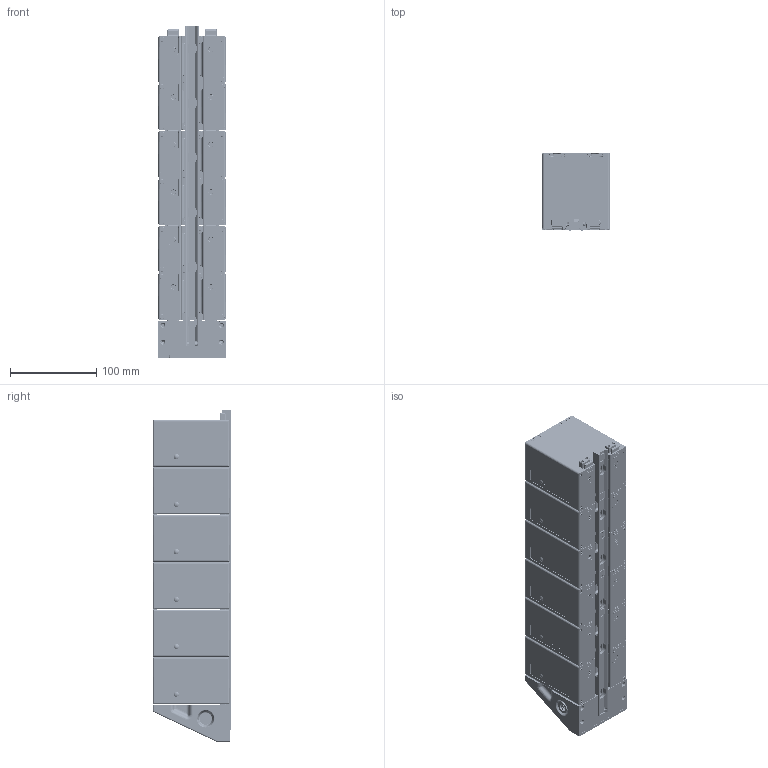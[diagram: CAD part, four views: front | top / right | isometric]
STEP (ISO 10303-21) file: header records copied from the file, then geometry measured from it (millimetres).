
FILE_DESCRIPTION (( 'STEP AP214' ), '1' );
FILE_NAME ('LGX 6X Basic Dock.STEP', '2025-11-04T00:54:06', ( '' ), ( '' ), 'SwSTEP 2.0', 'SolidWorks 2021', '' );
FILE_SCHEMA (( 'AUTOMOTIVE_DESIGN' ));
Length unit declared in the file: millimetre
Products named in the file (22): LGX 6X Basic Dock; LGX-Base_InjectionMolded; M3 Screw_M3x5; LGX Cell Assembly; XT60M; LXG Single Module_B2 Rear Locked; LG10X-Top_InjectionMolding; XT60F; LGX-Dock R3_Dock Only; LGX-Rail_Rail x6; M3 Screw_M3x18; LXG Single Module_B2 Locked; LXG Single Module_B2 Front Locked; LGX-Ovl; M3 Screw_M3x12; LGX_TLock; ST3 Plug; LGX-Dock R3_Shell Only; LGX-Encl_Extrusion Profile; LiGo 10X PCB P5; LGX-Latch
Assembly tree (96 placements, depth 4):
  LGX 6X Basic Dock
    LGX-Rail_Rail x6
    LGX-Dock R3_Dock Only
    XT60F  x2
    LGX-Dock R3_Shell Only
    LXG Single Module_B2 Front Locked
      LG10X-Top_InjectionMolding
      LGX-Encl_Extrusion Profile
      LGX-Base_InjectionMolded
      LGX Cell Assembly
        XT60F  x2
        XT60M  x2
        LiGo 10X PCB P5
      LGX-Latch  x2
      LGX-Ovl
      LGX_TLock  x4
      M3 Screw_M3x18  x4
      M3 Screw_M3x5  x2
      M3 Screw_M3x12  x8
    LXG Single Module_B2 Locked  x4
      LG10X-Top_InjectionMolding
      LGX-Encl_Extrusion Profile
      LGX-Base_InjectionMolded
      LGX Cell Assembly
        XT60F  x2
        XT60M  x2
      LGX-Latch
      LGX-Ovl
      LGX_TLock
      M3 Screw_M3x18
      M3 Screw_M3x5
      M3 Screw_M3x12
    LXG Single Module_B2 Rear Locked
      LG10X-Top_InjectionMolding
      LGX-Encl_Extrusion Profile
      LGX-Base_InjectionMolded
      LGX Cell Assembly
        XT60F  x2
        XT60M  x2
      LGX-Latch  x2
      LGX-Ovl
      LGX_TLock  x4
      M3 Screw_M3x18  x4
      M3 Screw_M3x5  x2
      M3 Screw_M3x12  x8
    ST3 Plug
Bounding box: 79.35 x 90.67 x 385.5 mm (x, y, z)
Volume: 634440.8 mm3; surface area: 627750.9 mm2
Topology: 267 solids, 267 shells, 26315 faces, 64861 edges, 38626 vertices
Faces by surface type: cylinder 8951, plane 6694, bspline 6256, torus 2900, cone 1408, sphere 106
Entity records: 161198 total; most frequent: CARTESIAN_POINT 50777, ORIENTED_EDGE 22960, DIRECTION 20941, EDGE_CURVE 11480, AXIS2_PLACEMENT_3D 7913, VERTEX_POINT 7031, VECTOR 5115, LINE 5115
